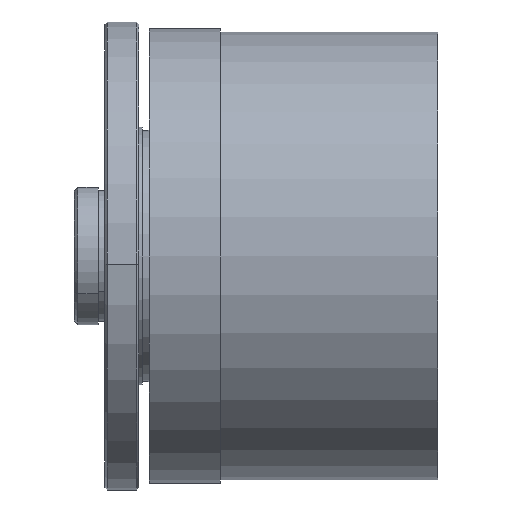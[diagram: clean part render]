
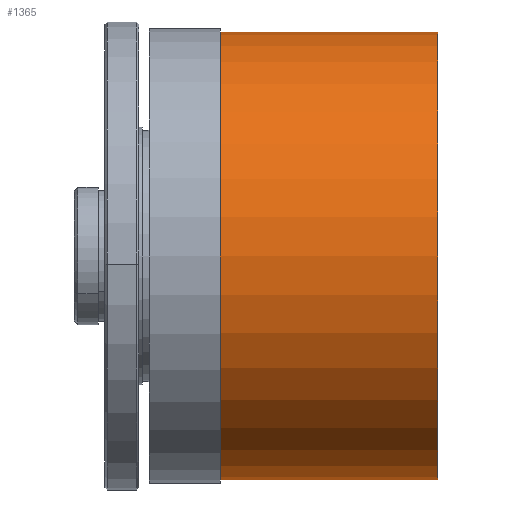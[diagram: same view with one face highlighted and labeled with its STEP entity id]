
A CAD part, left-side view. The second image highlights one B-rep face of the part: STEP entity #1365.
In plain terms, the highlighted cylindrical face has radius 33 mm (diameter 66 mm), a partial arc.
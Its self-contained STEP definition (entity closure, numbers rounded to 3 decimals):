
#15 = CARTESIAN_POINT ( 'NONE',  ( 0., 32., -33. ) ) ;
#100 = DIRECTION ( 'NONE',  ( 0., 0., -1. ) ) ;
#129 = DIRECTION ( 'NONE',  ( 0., -1., 0. ) ) ;
#140 = ORIENTED_EDGE ( 'NONE', *, *, #816, .T. ) ;
#158 = FACE_OUTER_BOUND ( 'NONE', #1882, .T. ) ;
#168 = AXIS2_PLACEMENT_3D ( 'NONE', #449, #1629, #100 ) ;
#245 = VERTEX_POINT ( 'NONE', #1083 ) ;
#439 = CARTESIAN_POINT ( 'NONE',  ( 0., 0., 33. ) ) ;
#448 = VECTOR ( 'NONE', #129, 1000. ) ;
#449 = CARTESIAN_POINT ( 'NONE',  ( 0., 0., 0. ) ) ;
#703 = DIRECTION ( 'NONE',  ( 0., 0., -1. ) ) ;
#714 = EDGE_CURVE ( 'NONE', #1400, #245, #2282, .T. ) ;
#726 = ORIENTED_EDGE ( 'NONE', *, *, #2192, .F. ) ;
#754 = LINE ( 'NONE', #2495, #1177 ) ;
#776 = CARTESIAN_POINT ( 'NONE',  ( 0., 32., 33. ) ) ;
#816 = EDGE_CURVE ( 'NONE', #2069, #1304, #1052, .T. ) ;
#1003 = EDGE_CURVE ( 'NONE', #1304, #245, #754, .T. ) ;
#1021 = ORIENTED_EDGE ( 'NONE', *, *, #1003, .T. ) ;
#1052 = CIRCLE ( 'NONE', #1554, 33. ) ;
#1083 = CARTESIAN_POINT ( 'NONE',  ( 0., 0., -33. ) ) ;
#1087 = DIRECTION ( 'NONE',  ( 0., -1., 0. ) ) ;
#1140 = AXIS2_PLACEMENT_3D ( 'NONE', #1258, #1854, #703 ) ;
#1177 = VECTOR ( 'NONE', #1704, 1000. ) ;
#1258 = CARTESIAN_POINT ( 'NONE',  ( 0., 0., 0. ) ) ;
#1304 = VERTEX_POINT ( 'NONE', #15 ) ;
#1365 = ADVANCED_FACE ( 'NONE', ( #158 ), #1444, .T. ) ;
#1400 = VERTEX_POINT ( 'NONE', #439 ) ;
#1444 = CYLINDRICAL_SURFACE ( 'NONE', #168, 33. ) ;
#1467 = CARTESIAN_POINT ( 'NONE',  ( 0., 0., 33. ) ) ;
#1554 = AXIS2_PLACEMENT_3D ( 'NONE', #1673, #1087, #2276 ) ;
#1629 = DIRECTION ( 'NONE',  ( 0., -1., 0. ) ) ;
#1673 = CARTESIAN_POINT ( 'NONE',  ( 0., 32., 0. ) ) ;
#1704 = DIRECTION ( 'NONE',  ( 0., -1., 0. ) ) ;
#1854 = DIRECTION ( 'NONE',  ( 0., -1., 0. ) ) ;
#1882 = EDGE_LOOP ( 'NONE', ( #726, #140, #1021, #1963 ) ) ;
#1963 = ORIENTED_EDGE ( 'NONE', *, *, #714, .F. ) ;
#2069 = VERTEX_POINT ( 'NONE', #776 ) ;
#2132 = LINE ( 'NONE', #1467, #448 ) ;
#2192 = EDGE_CURVE ( 'NONE', #2069, #1400, #2132, .T. ) ;
#2276 = DIRECTION ( 'NONE',  ( 0., 0., -1. ) ) ;
#2282 = CIRCLE ( 'NONE', #1140, 33. ) ;
#2495 = CARTESIAN_POINT ( 'NONE',  ( 0., 0., -33. ) ) ;
